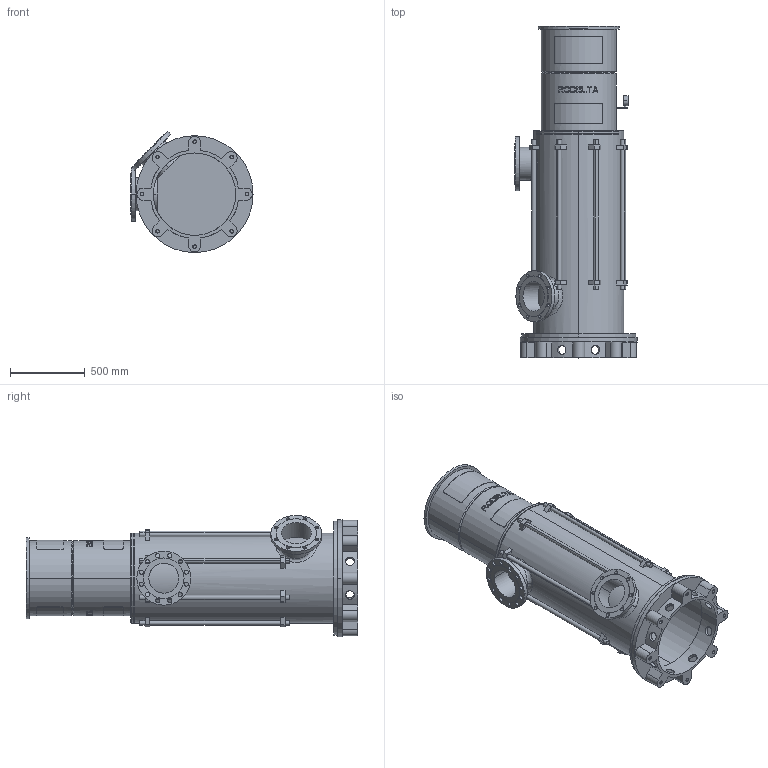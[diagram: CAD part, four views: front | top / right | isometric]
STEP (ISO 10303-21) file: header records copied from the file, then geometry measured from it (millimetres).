
FILE_DESCRIPTION((''),'2;1');
FILE_NAME('LS8_3TR_0GR','2025-10-17T14:01:30',('Lyritlocal'),(''),'CREO PARAMETRIC BY PTC INC, 2022014','CREO PARAMETRIC BY PTC INC, 2022014','');
FILE_SCHEMA(('CONFIG_CONTROL_DESIGN'));
Length unit declared in the file: millimetre
Products named in the file (1): LS8_3TR_0GR
Bounding box: 815 x 2214 x 808.61 mm (x, y, z)
Volume: 77041156.3 mm3; surface area: 10861973.2 mm2
Topology: 3 solids, 11 shells, 723 faces, 1878 edges, 1246 vertices
Faces by surface type: plane 440, cylinder 267, cone 12, bspline 4
Entity records: 23746 total; most frequent: CARTESIAN_POINT 6065, ORIENTED_EDGE 3724, DIRECTION 3488, EDGE_CURVE 1878, AXIS2_PLACEMENT_3D 1302, VERTEX_POINT 1246, EDGE_LOOP 888, VECTOR 884
